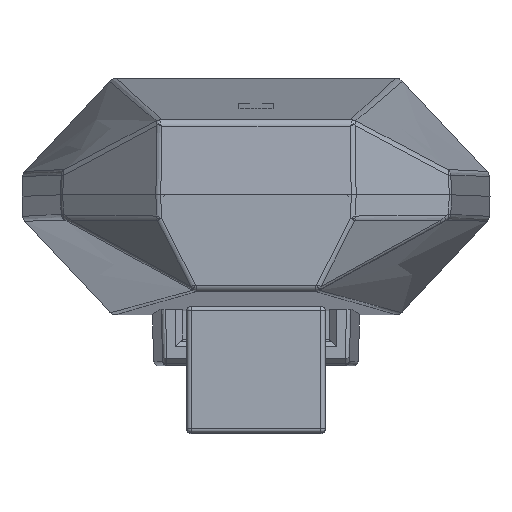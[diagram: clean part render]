
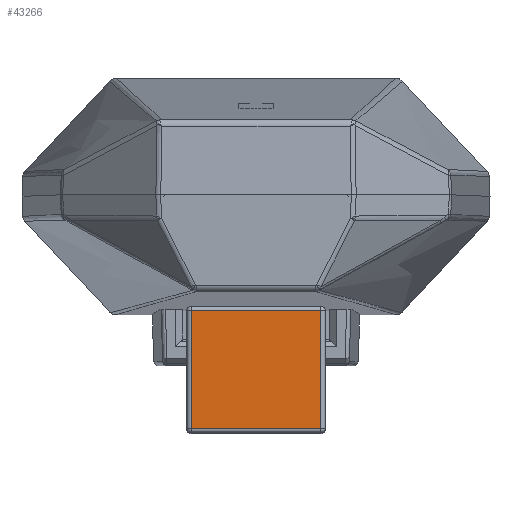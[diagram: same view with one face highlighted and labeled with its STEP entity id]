
A CAD part, top view. The second image highlights one B-rep face of the part: STEP entity #43266.
In plain terms, the highlighted planar face has unit normal (0, 0, 1).
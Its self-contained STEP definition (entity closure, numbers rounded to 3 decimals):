
#1047 = DIRECTION ( 'NONE',  ( 0., 1., 0. ) ) ;
#2970 = CARTESIAN_POINT ( 'NONE',  ( 0., 0., 32.771 ) ) ;
#5199 = VERTEX_POINT ( 'NONE', #27929 ) ;
#7964 = EDGE_CURVE ( 'NONE', #5199, #42840, #34502, .T. ) ;
#11645 = VECTOR ( 'NONE', #13948, 1000. ) ;
#12253 = ORIENTED_EDGE ( 'NONE', *, *, #31050, .T. ) ;
#13770 = VECTOR ( 'NONE', #1047, 1000. ) ;
#13948 = DIRECTION ( 'NONE',  ( 1., 0., 0. ) ) ;
#14877 = DIRECTION ( 'NONE',  ( 0., -1., 0. ) ) ;
#15725 = VERTEX_POINT ( 'NONE', #24732 ) ;
#16055 = ORIENTED_EDGE ( 'NONE', *, *, #48676, .T. ) ;
#16564 = EDGE_CURVE ( 'NONE', #15725, #5199, #43784, .T. ) ;
#16891 = LINE ( 'NONE', #21016, #42368 ) ;
#18162 = DIRECTION ( 'NONE',  ( 0., 0., 1. ) ) ;
#20393 = VECTOR ( 'NONE', #14877, 1000. ) ;
#21016 = CARTESIAN_POINT ( 'NONE',  ( -4.8, -7.453, 32.771 ) ) ;
#22782 = CARTESIAN_POINT ( 'NONE',  ( 0., -15.642, 32.771 ) ) ;
#22901 = ORIENTED_EDGE ( 'NONE', *, *, #16564, .T. ) ;
#23159 = LINE ( 'NONE', #30945, #13770 ) ;
#23493 = CARTESIAN_POINT ( 'NONE',  ( -4.5, -15.942, 32.771 ) ) ;
#24732 = CARTESIAN_POINT ( 'NONE',  ( -4.5, -7.453, 32.771 ) ) ;
#26303 = FACE_OUTER_BOUND ( 'NONE', #50778, .T. ) ;
#27929 = CARTESIAN_POINT ( 'NONE',  ( -4.5, -15.642, 32.771 ) ) ;
#29309 = AXIS2_PLACEMENT_3D ( 'NONE', #2970, #18162, #51606 ) ;
#30945 = CARTESIAN_POINT ( 'NONE',  ( 4.5, 0., 32.771 ) ) ;
#31050 = EDGE_CURVE ( 'NONE', #39972, #15725, #16891, .T. ) ;
#32850 = ORIENTED_EDGE ( 'NONE', *, *, #7964, .T. ) ;
#34502 = LINE ( 'NONE', #22782, #11645 ) ;
#35254 = CARTESIAN_POINT ( 'NONE',  ( 4.5, -7.453, 32.771 ) ) ;
#39413 = CARTESIAN_POINT ( 'NONE',  ( 4.5, -15.642, 32.771 ) ) ;
#39972 = VERTEX_POINT ( 'NONE', #35254 ) ;
#41620 = PLANE ( 'NONE',  #29309 ) ;
#42368 = VECTOR ( 'NONE', #50694, 1000. ) ;
#42840 = VERTEX_POINT ( 'NONE', #39413 ) ;
#43266 = ADVANCED_FACE ( 'NONE', ( #26303 ), #41620, .T. ) ;
#43784 = LINE ( 'NONE', #23493, #20393 ) ;
#48676 = EDGE_CURVE ( 'NONE', #42840, #39972, #23159, .T. ) ;
#50694 = DIRECTION ( 'NONE',  ( -1., 0., 0. ) ) ;
#50778 = EDGE_LOOP ( 'NONE', ( #16055, #12253, #22901, #32850 ) ) ;
#51606 = DIRECTION ( 'NONE',  ( 1., 0., 0. ) ) ;
